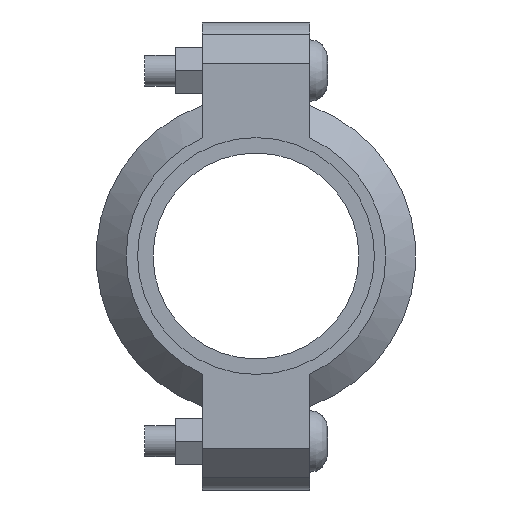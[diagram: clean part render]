
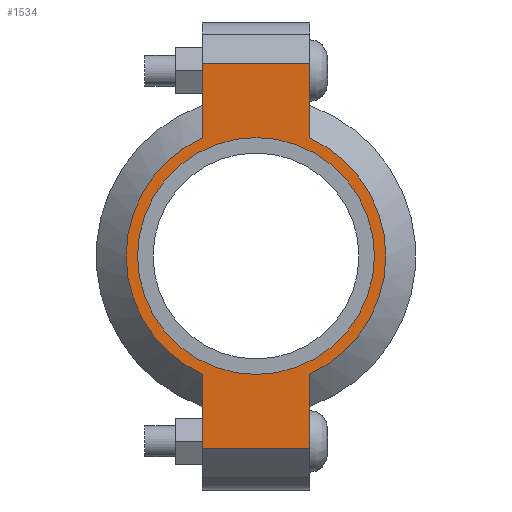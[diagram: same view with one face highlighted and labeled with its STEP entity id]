
A CAD part, left-side view. The second image highlights one B-rep face of the part: STEP entity #1534.
In plain terms, the highlighted planar face has unit normal (-1, 0, 0) as drawn and (0, 0, 1) by its records, which use the part's own axes.
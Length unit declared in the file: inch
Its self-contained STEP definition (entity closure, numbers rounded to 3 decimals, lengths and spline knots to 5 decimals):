
#158=LINE('',#2668,#251);
#166=LINE('',#2704,#259);
#173=LINE('',#2725,#266);
#182=LINE('',#2757,#275);
#183=LINE('',#2761,#276);
#184=LINE('',#2763,#277);
#251=VECTOR('',#2176,0.3937);
#259=VECTOR('',#2192,0.3937);
#266=VECTOR('',#2211,0.3937);
#275=VECTOR('',#2236,0.3937);
#276=VECTOR('',#2241,0.3937);
#277=VECTOR('',#2242,0.3937);
#333=FACE_BOUND('',#511,.T.);
#405=FACE_OUTER_BOUND('',#510,.T.);
#510=EDGE_LOOP('',(#1275,#1276,#1277,#1278,#1279,#1280,#1281,#1282));
#511=EDGE_LOOP('',(#1283));
#583=CIRCLE('',#1744,1.4375);
#609=CIRCLE('',#1803,1.575);
#610=CIRCLE('',#1804,1.575);
#675=VERTEX_POINT('',#2484);
#718=VERTEX_POINT('',#2665);
#719=VERTEX_POINT('',#2667);
#730=VERTEX_POINT('',#2699);
#731=VERTEX_POINT('',#2703);
#738=VERTEX_POINT('',#2722);
#739=VERTEX_POINT('',#2724);
#749=VERTEX_POINT('',#2760);
#750=VERTEX_POINT('',#2762);
#831=EDGE_CURVE('',#675,#675,#583,.T.);
#892=EDGE_CURVE('',#719,#718,#158,.T.);
#906=EDGE_CURVE('',#731,#730,#166,.T.);
#916=EDGE_CURVE('',#739,#738,#173,.T.);
#931=EDGE_CURVE('',#731,#718,#182,.T.);
#932=EDGE_CURVE('',#730,#739,#609,.T.);
#933=EDGE_CURVE('',#749,#738,#183,.T.);
#934=EDGE_CURVE('',#749,#750,#184,.T.);
#935=EDGE_CURVE('',#750,#719,#610,.T.);
#1275=ORIENTED_EDGE('',*,*,#931,.F.);
#1276=ORIENTED_EDGE('',*,*,#906,.T.);
#1277=ORIENTED_EDGE('',*,*,#932,.T.);
#1278=ORIENTED_EDGE('',*,*,#916,.T.);
#1279=ORIENTED_EDGE('',*,*,#933,.F.);
#1280=ORIENTED_EDGE('',*,*,#934,.T.);
#1281=ORIENTED_EDGE('',*,*,#935,.T.);
#1282=ORIENTED_EDGE('',*,*,#892,.T.);
#1283=ORIENTED_EDGE('',*,*,#831,.T.);
#1376=PLANE('',#1802);
#1534=ADVANCED_FACE('',(#405,#333),#1376,.T.);
#1744=AXIS2_PLACEMENT_3D('',#2486,#2052,#2053);
#1802=AXIS2_PLACEMENT_3D('',#2758,#2237,#2238);
#1803=AXIS2_PLACEMENT_3D('',#2759,#2239,#2240);
#1804=AXIS2_PLACEMENT_3D('',#2764,#2243,#2244);
#2052=DIRECTION('center_axis',(0.,0.,-1.));
#2053=DIRECTION('ref_axis',(-1.,0.,0.));
#2176=DIRECTION('',(-1.,0.,0.));
#2192=DIRECTION('',(1.,0.,0.));
#2211=DIRECTION('',(1.,0.,0.));
#2236=DIRECTION('',(0.,1.,0.));
#2237=DIRECTION('center_axis',(0.,0.,1.));
#2238=DIRECTION('ref_axis',(1.,0.,0.));
#2239=DIRECTION('center_axis',(0.,0.,1.));
#2240=DIRECTION('ref_axis',(-1.,0.,0.));
#2241=DIRECTION('',(0.,-1.,0.));
#2242=DIRECTION('',(-1.,0.,0.));
#2243=DIRECTION('center_axis',(0.,0.,1.));
#2244=DIRECTION('ref_axis',(-1.,0.,0.));
#2484=CARTESIAN_POINT('',(1.4375,0.,0.94));
#2486=CARTESIAN_POINT('Origin',(0.,0.,0.94));
#2665=CARTESIAN_POINT('',(-2.34,0.65,0.94));
#2667=CARTESIAN_POINT('',(-1.43462,0.65,0.94));
#2668=CARTESIAN_POINT('',(-2.84,0.65,0.94));
#2699=CARTESIAN_POINT('',(-1.43462,-0.65,0.94));
#2703=CARTESIAN_POINT('',(-2.34,-0.65,0.94));
#2704=CARTESIAN_POINT('',(2.84,-0.65,0.94));
#2722=CARTESIAN_POINT('',(2.34,-0.65,0.94));
#2724=CARTESIAN_POINT('',(1.43462,-0.65,0.94));
#2725=CARTESIAN_POINT('',(2.84,-0.65,0.94));
#2757=CARTESIAN_POINT('',(-2.34,0.325,0.94));
#2758=CARTESIAN_POINT('Origin',(0.,0.,
0.94));
#2759=CARTESIAN_POINT('Origin',(0.,0.,0.94));
#2760=CARTESIAN_POINT('',(2.34,0.65,0.94));
#2761=CARTESIAN_POINT('',(2.34,-0.325,0.94));
#2762=CARTESIAN_POINT('',(1.43462,0.65,0.94));
#2763=CARTESIAN_POINT('',(-2.84,0.65,0.94));
#2764=CARTESIAN_POINT('Origin',(0.,0.,0.94));
